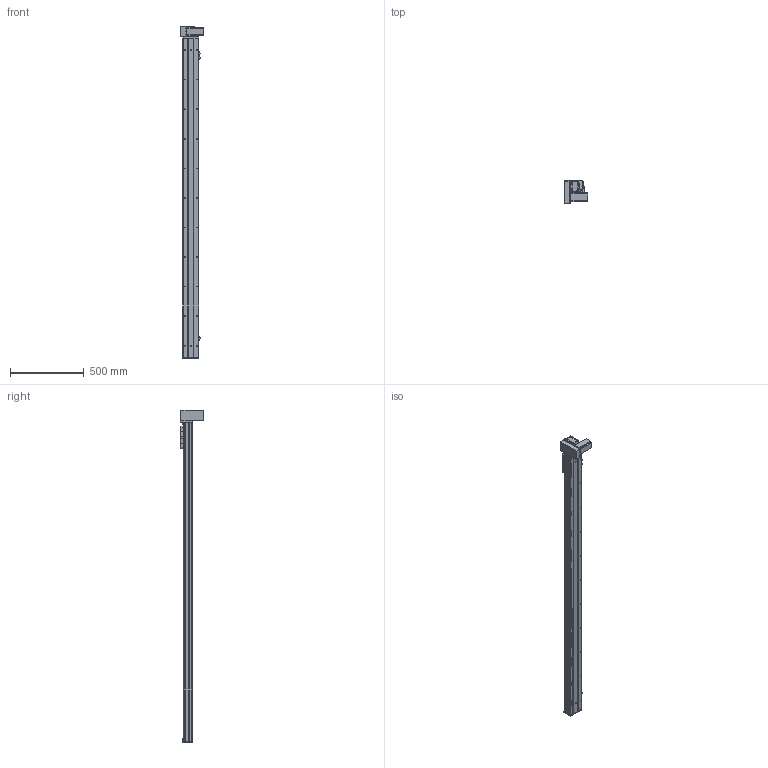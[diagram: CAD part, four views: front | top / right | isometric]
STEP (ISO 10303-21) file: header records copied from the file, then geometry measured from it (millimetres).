
FILE_DESCRIPTION (( 'STEP AP203' ), '1' );
FILE_NAME ('Y10CB-D90-S1900-BM-P400W.STEP', '2020-02-17T01:58:58', ( '微软用户' ), ( '微软中国' ), 'SwSTEP 2.0', 'SolidWorks 2017', '' );
FILE_SCHEMA (( 'CONFIG_CONTROL_DESIGN' ));
Length unit declared in the file: millimetre
Products named in the file (18): 10CB9-掛极; Y10B-々湍喘謫眊楊擘啣--; 10CB-耜裔; 0B-萇儂楊擘啣; Y135C-陔俋离換覜結え-; san松下电机400不带刹车----; Y100-135俋离換覜ん--; 0B-源倛裔啣; 0Cb-俋欶---; Y10B--々湍喘謫眊--666; 0B-埴倛裔啣; 00B-俋欶BM--; 10CB-詩湍-; Y10B-耜蚾蟀諉啣----; Y10CB- 掛极耜裔啣-毀---; 0CB-雄赽釱---; Y10CB-D90-S1900-BM-P400W; Y10C---詩湍揤啣
Assembly tree (21 placements, depth 2):
  Y10CB-D90-S1900-BM-P400W
    0CB-雄赽釱---
    0Cb-俋欶---
    Y10B-々湍喘謫眊楊擘啣--
    0B-萇儂楊擘啣
    san松下电机400不带刹车----
    0B-源倛裔啣
    0B-埴倛裔啣
    10CB-詩湍-
    Y10CB- 掛极耜裔啣-毀---  x2
    Y10C---詩湍揤啣  x2
    10CB9-掛极
    10CB-耜裔
    Y135C-陔俋离換覜結え-
    Y100-135俋离換覜ん--  x3
    Y10B--々湍喘謫眊--666
    00B-俋欶BM--
    Y10B-耜蚾蟀諉啣----
Bounding box: 157 x 156 x 2246 mm (x, y, z)
Volume: 4706545.2 mm3; surface area: 2203784.2 mm2
Topology: 21 solids, 21 shells, 1038 faces, 2803 edges, 1826 vertices
Faces by surface type: cylinder 529, plane 485, cone 24
Entity records: 32912 total; most frequent: CARTESIAN_POINT 6061, DIRECTION 5270, ORIENTED_EDGE 5076, EDGE_CURVE 2538, AXIS2_PLACEMENT_3D 1885, VERTEX_POINT 1652, VECTOR 1500, LINE 1500
